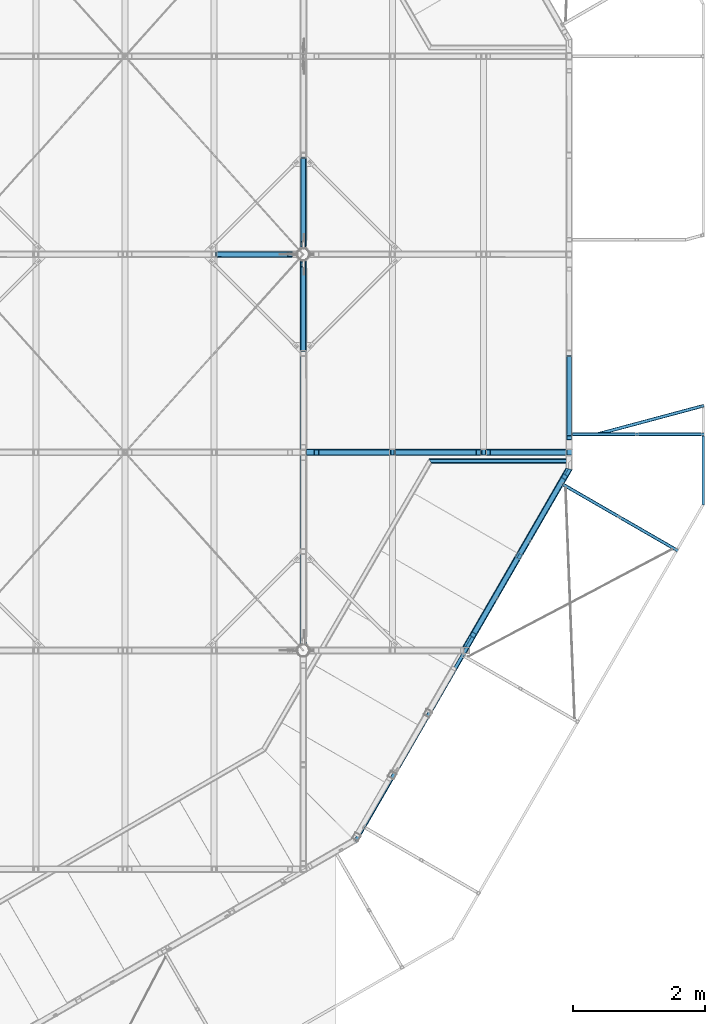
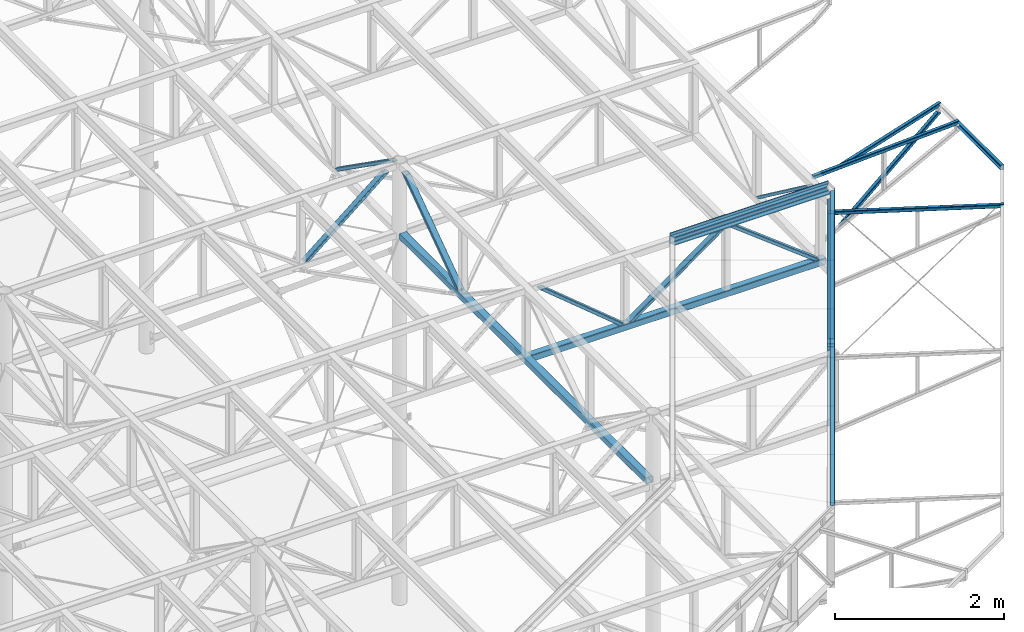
# One storey, part 50 of 132: 21 discrete accessories, 10 elements without a shape of their own.
"""IFC2X3 building model written with IfcOpenShell, lengths in millimetres."""

from ifc_helpers import new_model, si_unit, frame, origin_with_axes, origin_2d_with_axis, place, context, subcontext, project, spatial, hollow_rectangle, circle, l_section, u_section, extrude, boolean, clip, halfspace, material, type_object, element, aggregate, save


model = new_model("IFC2X3")

# Units and contexts
model_context = context("Model", 3, precision=1e-05, world=origin_with_axes())
body_context = subcontext(model_context, "Body", "Model", "MODEL_VIEW")
ifc_project = project(units=[si_unit("LENGTHUNIT", "METRE", prefix="MILLI"), si_unit("AREAUNIT", "SQUARE_METRE"), si_unit("VOLUMEUNIT", "CUBIC_METRE"), si_unit("MASSUNIT", "GRAM", prefix="KILO"), si_unit("TIMEUNIT", "SECOND"), si_unit("PLANEANGLEUNIT", "RADIAN"), si_unit("SOLIDANGLEUNIT", "STERADIAN"), si_unit("THERMODYNAMICTEMPERATUREUNIT", "DEGREE_CELSIUS"), si_unit("LUMINOUSINTENSITYUNIT", "LUMEN")], contexts=[model_context])

# Site, building, storey
site_placement = place(None, origin_with_axes())
site = spatial("IfcSite", under=ifc_project, at=site_placement, Name="Budowa", CompositionType="ELEMENT")
building_placement = place(site_placement, origin_with_axes())
building = spatial("IfcBuilding", under=site, at=building_placement, Name="Undefined", CompositionType="ELEMENT")
storey_placement = place(building_placement, origin_with_axes())
storey = spatial("IfcBuildingStorey", under=building, at=storey_placement, Name="Undefined", CompositionType="ELEMENT", Elevation=0.0)

# Assembly, discrete accessories
assembly_1_placement = place(storey_placement, origin_with_axes())
assembly_1 = element("IfcElementAssembly", 1, at=assembly_1_placement, inside=storey, Name="Steel Assembly", AssemblyPlace="NOTDEFINED", PredefinedType="RIGID_FRAME")
ifc_material = material(Name="STEEL/S235")
discrete_accessory_type = type_object("IfcDiscreteAccessoryType", Name="BEAM")
discrete_accessory_1_placement = place(assembly_1_placement, frame((21011.7389202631, 3102.48285678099, 14004.0), z_axis=(-0.866017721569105, 0.500013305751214, 0.0), x_axis=(0.500013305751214, 0.866017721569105, 0.0)))
discrete_accessory_1 = element("IfcDiscreteAccessory", 2, at=discrete_accessory_1_placement, type_object=discrete_accessory_type, material=ifc_material, Name="BEAM", ObjectType="L60*40*6", context=body_context, shape_type="Clipping", body=[
    clip(clip(extrude(l_section(Depth=60.0, Width=40.0, Thickness=6.0, FilletRadius=6.0, EdgeRadius=3.0, at=origin_2d_with_axis()), frame((6568.83135179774, 0.0, 0.0), z_axis=(-1.0, 0.0, 0.0), x_axis=(0.0, -1.0, 0.0)), (0.0, 0.0, 1.0), 6613.27), halfspace(frame((6508.31074122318, 0.0, 29.9999999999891), z_axis=(-0.965923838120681, 0.0, -0.258826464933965), x_axis=(0.0, -1.0, 0.0)), True)), halfspace(frame((16.0767190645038, 0.0, 30.0000000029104), z_axis=(-0.965926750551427, 0.0, 0.258815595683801), x_axis=(0.0, -1.0, 0.0)), False)),
])
discrete_accessory_2_placement = place(assembly_1_placement, frame((22131.6352302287, 8870.99999993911, 13965.0), z_axis=(0.0, -1.0, 0.0), x_axis=(1.0, 0.0, 0.0)))
discrete_accessory_2 = element("IfcDiscreteAccessory", 3, at=discrete_accessory_2_placement, type_object=discrete_accessory_type, material=ifc_material, Name="BEAM", ObjectType="L50*6", context=body_context, shape_type="Clipping", body=[
    clip(clip(extrude(l_section(Depth=50.0, Width=50.0, Thickness=6.0, FilletRadius=7.0, EdgeRadius=3.5, at=origin_2d_with_axis()), frame((2183.24322268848, 0.0, 0.0), z_axis=(-1.0, 0.0, 0.0), x_axis=(0.0, -1.0, 0.0)), (0.0, 0.0, 1.0), 2213.69), halfspace(frame((2108.36512696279, 0.0, 25.0), z_axis=(0.64018439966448, 0.0, 0.768221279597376), x_axis=(0.0, 1.0, 0.0)), False)), halfspace(frame((3.51101334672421e-08, 0.0, -24.9999999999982), z_axis=(-0.866025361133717, 0.0, 0.500000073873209), x_axis=(0.0, 1.0, 0.0)), False)),
])
aggregate(assembly_1, [discrete_accessory_1, discrete_accessory_2])

# Assembly, discrete accessory
assembly_2_placement = place(storey_placement, origin_with_axes())
assembly_2 = element("IfcElementAssembly", 4, at=assembly_2_placement, inside=storey, Name="Steel Assembly", AssemblyPlace="NOTDEFINED", PredefinedType="RIGID_FRAME")
discrete_accessory_3_placement = place(assembly_2_placement, frame((22152.41983437, 8867.49999999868, 13955.0), z_axis=(0.0, 0.0, 1.0), x_axis=(1.0, 0.0, 0.0)))
discrete_accessory_3 = element("IfcDiscreteAccessory", 5, at=discrete_accessory_3_placement, type_object=discrete_accessory_type, material=ifc_material, Name="BEAM", ObjectType="L150*75*9", context=body_context, shape_type="Clipping", body=[
    clip(extrude(l_section(Depth=150.0, Width=75.0, Thickness=9.0, FilletRadius=10.5, EdgeRadius=5.5, at=origin_2d_with_axis()), frame((2147.58027336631, 0.0, 0.0), z_axis=(-1.0, 0.0, 0.0), x_axis=(0.0, -1.0, 0.0)), (0.0, 0.0, 1.0), 2173.78), halfspace(frame((-25.9807570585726, 37.49999999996, 0.0), z_axis=(-0.866025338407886, -0.500000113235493, 0.0), x_axis=(0.0, 0.0, 1.0)), False)),
])
aggregate(assembly_2, [discrete_accessory_3])

# Assembly, discrete accessories
assembly_3_placement = place(storey_placement, origin_with_axes())
assembly_3 = element("IfcElementAssembly", 6, at=assembly_3_placement, inside=storey, Name="Steel Assembly", AssemblyPlace="NOTDEFINED", PredefinedType="RIGID_FRAME")
discrete_accessory_4_placement = place(assembly_3_placement, frame((26280.0003814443, 7700.00000004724, 13945.0050191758), z_axis=(0.0, 0.0, -1.0), x_axis=(0.0, 1.0, 0.0)))
discrete_accessory_4 = element("IfcDiscreteAccessory", 7, at=discrete_accessory_4_placement, type_object=discrete_accessory_type, material=ifc_material, Name="BEAM", ObjectType="C70*40*4", context=body_context, shape_type="Clipping", body=[
    clip(clip(extrude(u_section(Depth=70.0, FlangeWidth=40.0, WebThickness=4.0, FlangeThickness=4.0, FilletRadius=6.0, at=origin_2d_with_axis()), frame((1550.04355192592, 0.0, 0.0), z_axis=(-1.0, 0.0, 0.0), x_axis=(0.0, -1.0, 0.0)), (0.0, 0.0, 1.0), 1048.11), halfspace(frame((1550.04355192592, 2.5465851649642e-11, -1000.00000000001), z_axis=(-1.0, 0.0, 0.0), x_axis=(0.0, 1.0, 0.0)), True)), halfspace(frame((501.991277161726, 20.0000000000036, -3.0404407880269e-08), z_axis=(0.965930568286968, 0.258801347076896, 0.0), x_axis=(0.0, 0.0, -1.0)), True)),
])
discrete_accessory_5_placement = place(assembly_3_placement, frame((24362.7871924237, 9191.82377756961, 13857.2446461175), z_axis=(-0.258819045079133, 0.965925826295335, 0.0), x_axis=(0.964720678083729, 0.258496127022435, 0.049937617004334)))
discrete_accessory_5 = element("IfcDiscreteAccessory", 8, at=discrete_accessory_5_placement, type_object=discrete_accessory_type, material=ifc_material, Name="BEAM", ObjectType="SHS50*4", context=body_context, shape_type="Clipping", body=[
    clip(clip(extrude(hollow_rectangle(XDim=50.0, YDim=50.0, WallThickness=4.0, InnerFilletRadius=4.0, OuterFilletRadius=8.0, at=origin_2d_with_axis()), frame((2111.08550898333, -1.80434080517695e-12, -9.53752221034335e-13), z_axis=(-1.0, 0.0, 0.0), x_axis=(0.0, -1.0, 0.0)), (0.0, 0.0, 1.0), 1827.2), halfspace(frame((2002.5989463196, -25.0000000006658, -7.85761585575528e-07), z_axis=(-0.689225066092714, -0.724547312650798, 2.88487317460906e-10), x_axis=(0.0, 0.0, -1.0)), True)), halfspace(frame((1294.40710543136, 0.323120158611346, -234.369575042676), z_axis=(0.258496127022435, 0.0129248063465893, 0.965925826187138), x_axis=(0.0033412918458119, -0.999916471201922, 0.0124854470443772)), True)),
])
discrete_accessory_6_placement = place(assembly_3_placement, frame((24349.0587674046, 9188.1452571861, 12837.2694042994), z_axis=(-0.258819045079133, 0.965925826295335, 0.0), x_axis=(0.861116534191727, 0.230735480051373, 0.453033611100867)))
discrete_accessory_6 = element("IfcDiscreteAccessory", 9, at=discrete_accessory_6_placement, type_object=discrete_accessory_type, material=ifc_material, Name="BEAM", ObjectType="SHS50*4", context=body_context, shape_type="Clipping", body=[
    clip(clip(extrude(hollow_rectangle(XDim=50.0, YDim=50.0, WallThickness=4.0, InnerFilletRadius=4.0, OuterFilletRadius=8.0, at=origin_2d_with_axis()), frame((2389.35734704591, -7.57925581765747e-14, -1.3295408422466e-12), z_axis=(-1.0, 0.0, 0.0), x_axis=(0.0, -1.0, 0.0)), (0.0, 0.0, 1.0), 2063.71), halfspace(frame((2245.37694878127, 25.0000000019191, -2.87608600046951e-07), z_axis=(-0.852359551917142, 0.522956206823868, 1.21815370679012e-10), x_axis=(0.0, 0.0, 1.0)), True)), halfspace(frame((1355.01781763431, 2.93134316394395, -208.190005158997), z_axis=(0.230735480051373, 0.117253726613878, 0.965925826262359), x_axis=(0.0272425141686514, -0.993101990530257, 0.114045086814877)), True)),
])
discrete_accessory_7_placement = place(assembly_3_placement, frame((24301.1484404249, 9275.04355197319, 13855.0311915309), z_axis=(0.0, 1.0, 0.0), x_axis=(0.998752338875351, 0.0, 0.0499376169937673)))
discrete_accessory_7 = element("IfcDiscreteAccessory", 10, at=discrete_accessory_7_placement, type_object=discrete_accessory_type, material=ifc_material, Name="BEAM", ObjectType="SHS50*4", context=body_context, shape_type="Clipping", body=[
    clip(clip(extrude(hollow_rectangle(XDim=50.0, YDim=50.0, WallThickness=4.0, InnerFilletRadius=4.0, OuterFilletRadius=8.0, at=origin_2d_with_axis()), frame((2004.12425861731, -3.63797880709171e-12, 0.0), z_axis=(-1.0, 0.0, 0.0), x_axis=(0.0, -1.0, 0.0)), (0.0, 0.0, 1.0), 2033.18), halfspace(frame((2002.5989463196, -25.0000000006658, -7.85761585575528e-07), z_axis=(-0.689225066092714, -0.724547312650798, 2.88487317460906e-10), x_axis=(0.0, 0.0, -1.0)), True)), halfspace(frame((-1.23691279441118e-08, -25.0000000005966, 73.1665326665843), z_axis=(-0.998752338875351, -0.0499376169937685, 0.0), x_axis=(0.0, 0.0, -1.0)), False)),
])
aggregate(assembly_3, [discrete_accessory_4, discrete_accessory_5, discrete_accessory_6, discrete_accessory_7])

# Assembly, discrete accessory
assembly_4_placement = place(storey_placement, origin_with_axes())
assembly_4 = element("IfcElementAssembly", 11, at=assembly_4_placement, inside=storey, Name="Steel Assembly", AssemblyPlace="NOTDEFINED", PredefinedType="RIGID_FRAME")
discrete_accessory_8_placement = place(assembly_4_placement, frame((24169.0634543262, 8508.74561168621, 13855.0311915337), z_axis=(-0.499969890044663, -0.866042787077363, 0.0), x_axis=(0.864962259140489, -0.499346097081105, 0.0499376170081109)))
discrete_accessory_8 = element("IfcDiscreteAccessory", 12, at=discrete_accessory_8_placement, type_object=discrete_accessory_type, material=ifc_material, Name="BEAM", ObjectType="SHS50*4", context=body_context, shape_type="Clipping", body=[
    clip(clip(extrude(hollow_rectangle(XDim=50.0, YDim=50.0, WallThickness=4.0, InnerFilletRadius=4.0, OuterFilletRadius=8.0, at=origin_2d_with_axis()), frame((2047.80222226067, -1.81898940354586e-12, -1.00153404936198e-12), z_axis=(-1.0, 0.0, 0.0), x_axis=(0.0, -1.0, 0.0)), (0.0, 0.0, 1.0), 2120.54), halfspace(frame((2002.59894631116, 25.0000000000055, -2.91038304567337e-11), z_axis=(-0.689225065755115, 0.724547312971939, 0.0), x_axis=(0.0, 0.0, 1.0)), True)), halfspace(frame((-1.21290213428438e-08, 25.0000000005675, 73.1665326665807), z_axis=(-0.998752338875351, 0.0499376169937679, 0.0), x_axis=(-0.0499376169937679, -0.998752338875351, 0.0)), False)),
])
aggregate(assembly_4, [discrete_accessory_8])

assembly_5_placement = place(storey_placement, origin_with_axes())
assembly_5 = element("IfcElementAssembly", 13, at=assembly_5_placement, inside=storey, Name="Steel Assembly", AssemblyPlace="NOTDEFINED", PredefinedType="RIGID_FRAME")
discrete_accessory_9_placement = place(assembly_5_placement, frame((24249.8999999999, 10500.000000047, 12830.0000000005), z_axis=(-1.0, 0.0, 0.0), x_axis=(0.0, -0.802498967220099, 0.596653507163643)))
solid_1 = boolean("DIFFERENCE", boolean("DIFFERENCE", extrude(hollow_rectangle(XDim=90.0, YDim=90.0, WallThickness=4.0, InnerFilletRadius=4.0, OuterFilletRadius=8.0, at=origin_2d_with_axis()), frame((566.820831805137, 762.3740188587, -2.91038304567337e-11), z_axis=(-0.596653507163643, -0.802498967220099, 0.0), x_axis=(0.0, 0.0, 1.0)), (0.0, 0.0, 1.0), 900.0), halfspace(frame((-235.678135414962, 1359.02752602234, -2.91038304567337e-11), z_axis=(-0.596653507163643, -0.802498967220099, 0.0), x_axis=(0.0, 0.0, 1.0)), True)), halfspace(frame((-772.666291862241, 636.778455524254, -2.91038304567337e-11), z_axis=(0.596653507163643, 0.802498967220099, 0.0), x_axis=(0.0, 0.0, -1.0)), True))
discrete_accessory_9 = element("IfcDiscreteAccessory", 14, at=discrete_accessory_9_placement, type_object=discrete_accessory_type, material=ifc_material, Name="BEAM", ObjectType="RHS80*40*4", context=body_context, shape_type="CSG", body=[
    boolean("DIFFERENCE", boolean("DIFFERENCE", boolean("DIFFERENCE", extrude(hollow_rectangle(XDim=40.0, YDim=80.0, WallThickness=4.0, InnerFilletRadius=4.0, OuterFilletRadius=8.0, at=origin_2d_with_axis()), frame((1637.41704532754, 0.0, 0.0), z_axis=(-1.0, 0.0, 0.0), x_axis=(0.0, -1.0, 0.0)), (0.0, 0.0, 1.0), 1598.82), solid_1), halfspace(frame((1646.18194282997, -40.1249483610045, 1000.0), z_axis=(-0.596653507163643, -0.802498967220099, 0.0), x_axis=(0.802498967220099, -0.596653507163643, 0.0)), True)), halfspace(frame((29.8326753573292, 40.1249483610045, 1000.0), z_axis=(0.596653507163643, 0.802498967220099, 0.0), x_axis=(-0.802498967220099, 0.596653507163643, 0.0)), True)),
])
aggregate(assembly_5, [discrete_accessory_9])

# Assembly, discrete accessories
assembly_6_placement = place(storey_placement, origin_with_axes())
assembly_6 = element("IfcElementAssembly", 15, at=assembly_6_placement, inside=storey, Name="Steel Assembly", AssemblyPlace="NOTDEFINED", PredefinedType="RIGID_FRAME")
discrete_accessory_10_placement = place(assembly_6_placement, frame((23489.6987875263, 7434.23487827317, 12830.0000000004), z_axis=(0.866025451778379, -0.499999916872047, 0.0), x_axis=(-0.412062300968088, -0.713712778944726, 0.566408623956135)))
solid_2 = boolean("DIFFERENCE", boolean("DIFFERENCE", extrude(hollow_rectangle(XDim=90.0, YDim=90.0, WallThickness=4.0, InnerFilletRadius=4.0, OuterFilletRadius=8.0, at=origin_2d_with_axis()), frame((538.088192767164, -782.918320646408, 9.82236597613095e-08), z_axis=(-0.566408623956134, 0.824124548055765, -1.04792036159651e-10), x_axis=(0.0, 0.0, -1.0)), (0.0, 0.0, 1.0), 900.0), halfspace(frame((-286.03635719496, -1349.32694591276, 5.13791746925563e-08), z_axis=(-0.566408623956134, 0.824124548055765, -1.04792036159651e-10), x_axis=(0.824124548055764, 0.566408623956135, 1.52471329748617e-10)), True)), halfspace(frame((-795.804118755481, -607.614852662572, 1.45691046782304e-07), z_axis=(0.566408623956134, -0.824124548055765, 1.04790926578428e-10), x_axis=(0.824124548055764, 0.566408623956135, 1.52471329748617e-10)), True))
discrete_accessory_10 = element("IfcDiscreteAccessory", 16, at=discrete_accessory_10_placement, type_object=discrete_accessory_type, material=ifc_material, Name="BEAM", ObjectType="RHS80*40*4", context=body_context, shape_type="CSG", body=[
    boolean("DIFFERENCE", boolean("DIFFERENCE", boolean("DIFFERENCE", extrude(hollow_rectangle(XDim=40.0, YDim=80.0, WallThickness=4.0, InnerFilletRadius=4.0, OuterFilletRadius=8.0, at=origin_2d_with_axis()), frame((1787.39149860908, -1.98440319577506e-13, -3.60765181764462e-12), z_axis=(-1.0, 0.0, 0.0), x_axis=(0.0, -1.0, 0.0)), (0.0, 0.0, 1.0), 1809.27), solid_2), halfspace(frame((1737.18941028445, 41.2062274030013, 999.999999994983), z_axis=(-0.566408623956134, 0.824124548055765, -1.04792036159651e-10), x_axis=(-0.824124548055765, -0.566408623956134, -1.52471329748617e-10)), True)), halfspace(frame((28.3204310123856, -41.2062274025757, 1000.00000000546), z_axis=(0.566408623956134, -0.824124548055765, 1.04790926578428e-10), x_axis=(0.824124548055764, 0.566408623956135, 1.52471329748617e-10)), True)),
])
discrete_accessory_11_placement = place(assembly_6_placement, frame((23489.6987875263, 7434.23487827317, 12830.0000000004), z_axis=(0.866025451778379, -0.499999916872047, 0.0), x_axis=(0.412062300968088, 0.713712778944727, 0.566408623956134)))
solid_3 = boolean("DIFFERENCE", boolean("DIFFERENCE", extrude(hollow_rectangle(XDim=90.0, YDim=90.0, WallThickness=4.0, InnerFilletRadius=4.0, OuterFilletRadius=8.0, at=origin_2d_with_axis()), frame((538.088190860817, 782.918321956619, -1.00875396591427e-07), z_axis=(-0.566408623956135, -0.824124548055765, 1.04791647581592e-10), x_axis=(0.0, 0.0, -1.0)), (0.0, 0.0, 1.0), 900.0), halfspace(frame((1362.21274082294, 216.509696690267, 2.50475750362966e-07), z_axis=(-0.566408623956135, -0.824124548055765, 1.04791647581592e-10), x_axis=(-0.824124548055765, 0.566408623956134, 1.52474967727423e-10)), True)), halfspace(frame((852.444979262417, -525.202396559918, 1.56162059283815e-07), z_axis=(0.566408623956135, 0.824124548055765, -1.04794017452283e-10), x_axis=(-0.824124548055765, 0.566408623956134, 1.52474967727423e-10)), True))
discrete_accessory_11 = element("IfcDiscreteAccessory", 17, at=discrete_accessory_11_placement, type_object=discrete_accessory_type, material=ifc_material, Name="BEAM", ObjectType="RHS80*40*4", context=body_context, shape_type="CSG", body=[
    boolean("DIFFERENCE", boolean("DIFFERENCE", boolean("DIFFERENCE", extrude(hollow_rectangle(XDim=40.0, YDim=80.0, WallThickness=4.0, InnerFilletRadius=4.0, OuterFilletRadius=8.0, at=origin_2d_with_axis()), frame((1787.39149860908, -1.98440319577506e-13, -3.60765181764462e-12), z_axis=(-1.0, 0.0, 0.0), x_axis=(0.0, -1.0, 0.0)), (0.0, 0.0, 1.0), 1809.27), solid_3), halfspace(frame((1737.18941065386, -41.2062274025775, 1000.00000000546), z_axis=(-0.566408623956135, -0.824124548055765, 1.04791647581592e-10), x_axis=(0.824124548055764, -0.566408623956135, -1.52471329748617e-10)), True)), halfspace(frame((28.3204313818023, 41.2062274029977, 999.999999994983), z_axis=(0.566408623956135, 0.824124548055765, -1.04794017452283e-10), x_axis=(-0.824124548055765, 0.566408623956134, 1.52474967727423e-10)), True)),
])
discrete_accessory_12_placement = place(assembly_6_placement, frame((22704.5987308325, 6074.40181030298, 12830.0), z_axis=(0.866025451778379, -0.499999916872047, 0.0), x_axis=(0.5000000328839, 0.866025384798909, 0.0)))
discrete_accessory_12 = element("IfcDiscreteAccessory", 18, at=discrete_accessory_12_placement, type_object=discrete_accessory_type, material=ifc_material, Name="BEAM", ObjectType="SHS100*8", context=body_context, shape_type="Clipping", body=[
    clip(clip(extrude(hollow_rectangle(XDim=100.0, YDim=100.0, WallThickness=8.0, InnerFilletRadius=8.0, OuterFilletRadius=16.0, at=origin_2d_with_axis()), frame((3156.92730982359, 0.0, 0.0), z_axis=(-1.0, 0.0, 0.0), x_axis=(0.0, -1.0, 0.0)), (0.0, 0.0, 1.0), 3251.23), halfspace(frame((3104.20001122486, 0.0, 49.99999999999), z_axis=(0.965925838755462, 0.0, -0.2588189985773), x_axis=(0.0, 1.0, 0.0)), False)), halfspace(frame((0.518048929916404, 50.0, 49.7009042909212), z_axis=(0.866025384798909, 0.0, -0.5000000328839), x_axis=(-0.5000000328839, 0.0, -0.866025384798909)), True)),
])
discrete_accessory_13_placement = place(assembly_6_placement, frame((22704.5987308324, 6074.40181030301, 13830.0), z_axis=(0.866025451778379, -0.499999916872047, 0.0), x_axis=(0.5000000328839, 0.866025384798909, 0.0)))
discrete_accessory_13 = element("IfcDiscreteAccessory", 19, at=discrete_accessory_13_placement, type_object=discrete_accessory_type, material=ifc_material, Name="BEAM", ObjectType="SHS100*8", context=body_context, shape_type="Clipping", body=[
    clip(clip(extrude(hollow_rectangle(XDim=100.0, YDim=100.0, WallThickness=8.0, InnerFilletRadius=8.0, OuterFilletRadius=16.0, at=origin_2d_with_axis()), frame((3156.92730982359, 0.0, 0.0), z_axis=(-1.0, 0.0, 0.0), x_axis=(0.0, -1.0, 0.0)), (0.0, 0.0, 1.0), 3251.23), halfspace(frame((3104.20001122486, 0.0, 49.99999999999), z_axis=(0.965925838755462, 0.0, -0.2588189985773), x_axis=(0.0, 1.0, 0.0)), False)), halfspace(frame((0.518048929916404, 50.0, 49.7009042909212), z_axis=(0.866025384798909, 0.0, -0.5000000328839), x_axis=(-0.5000000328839, 0.0, -0.866025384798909)), True)),
])
aggregate(assembly_6, [discrete_accessory_10, discrete_accessory_11, discrete_accessory_12, discrete_accessory_13])

assembly_7_placement = place(storey_placement, origin_with_axes())
assembly_7 = element("IfcElementAssembly", 20, at=assembly_7_placement, inside=storey, Name="Steel Assembly", AssemblyPlace="NOTDEFINED", PredefinedType="RIGID_FRAME")
discrete_accessory_14_placement = place(assembly_7_placement, frame((20365.8999999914, 9000.00000004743, 13830.0000000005), z_axis=(0.0, -1.0, 0.0), x_axis=(0.77030791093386, 0.0, -0.637672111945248)))
solid_4 = boolean("DIFFERENCE", boolean("DIFFERENCE", extrude(hollow_rectangle(XDim=90.0, YDim=90.0, WallThickness=6.0, InnerFilletRadius=6.0, OuterFilletRadius=12.0, at=origin_2d_with_axis()), frame((1536.320462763, 38.5153958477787, 3.71073838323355e-10), z_axis=(-0.637672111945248, 0.770307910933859, 0.0), x_axis=(0.0, 0.0, -1.0)), (0.0, 0.0, 1.0), 900.0), halfspace(frame((766.012551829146, -599.15671609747, 3.71073838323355e-10), z_axis=(-0.637672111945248, 0.770307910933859, 0.0), x_axis=(0.0, 0.0, -1.0)), True)), halfspace(frame((192.107651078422, 94.1204037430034, 3.71073838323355e-10), z_axis=(0.637672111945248, -0.770307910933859, 0.0), x_axis=(0.0, 0.0, 1.0)), True))
discrete_accessory_14 = element("IfcDiscreteAccessory", 21, at=discrete_accessory_14_placement, type_object=discrete_accessory_type, material=ifc_material, Name="BEAM", ObjectType="RHS90*50*5", context=body_context, shape_type="CSG", body=[
    boolean("DIFFERENCE", boolean("DIFFERENCE", boolean("DIFFERENCE", extrude(hollow_rectangle(XDim=50.0, YDim=90.0, WallThickness=5.0, InnerFilletRadius=7.5, OuterFilletRadius=12.5, at=origin_2d_with_axis()), frame((1532.27723418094, -9.9455317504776e-13, 0.0), z_axis=(-1.0, 0.0, 0.0), x_axis=(0.0, -1.0, 0.0)), (0.0, 0.0, 1.0), 1496.35), solid_4), halfspace(frame((1536.32046239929, 38.5153955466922, 1000.0), z_axis=(-0.637672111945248, 0.770307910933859, 0.0), x_axis=(-0.770307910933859, -0.637672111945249, 0.0)), True)), halfspace(frame((31.8836055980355, -38.5153955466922, 1000.0), z_axis=(0.637672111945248, -0.770307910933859, 0.0), x_axis=(0.77030791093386, 0.637672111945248, 0.0)), True)),
])
discrete_accessory_15_placement = place(assembly_7_placement, frame((22954.8999995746, 9000.00000004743, 13830.0000000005), z_axis=(0.0, -1.0, 0.0), x_axis=(-0.809951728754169, 0.0, -0.586496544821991)))
solid_5 = boolean("DIFFERENCE", boolean("DIFFERENCE", extrude(hollow_rectangle(XDim=90.0, YDim=90.0, WallThickness=6.0, InnerFilletRadius=6.0, OuterFilletRadius=12.0, at=origin_2d_with_axis()), frame((1675.71505464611, -40.4975858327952, 3.72892827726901e-10), z_axis=(-0.586496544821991, -0.809951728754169, 0.0), x_axis=(0.0, 0.0, -1.0)), (0.0, 0.0, 1.0), 900.0), halfspace(frame((2485.66678340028, -626.994130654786, 3.72892827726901e-10), z_axis=(-0.586496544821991, -0.809951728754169, 0.0), x_axis=(0.0, 0.0, -1.0)), True)), halfspace(frame((1957.81989306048, -1355.95068653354, 3.72892827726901e-10), z_axis=(0.586496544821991, 0.809951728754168, 0.0), x_axis=(0.0, 0.0, 1.0)), True))
solid_6 = boolean("DIFFERENCE", boolean("DIFFERENCE", extrude(hollow_rectangle(XDim=90.0, YDim=90.0, WallThickness=6.0, InnerFilletRadius=6.0, OuterFilletRadius=12.0, at=origin_2d_with_axis()), frame((557.171717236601, 769.454142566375, 3.72892827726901e-10), z_axis=(-0.586496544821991, -0.809951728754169, 0.0), x_axis=(0.0, 0.0, -1.0)), (0.0, 0.0, 1.0), 900.0), halfspace(frame((1367.12344599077, 182.957597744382, 3.72892827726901e-10), z_axis=(-0.586496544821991, -0.809951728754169, 0.0), x_axis=(0.0, 0.0, -1.0)), True)), halfspace(frame((839.27655565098, -545.998958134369, 3.72892827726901e-10), z_axis=(0.586496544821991, 0.809951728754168, 0.0), x_axis=(0.0, 0.0, 1.0)), True))
discrete_accessory_15 = element("IfcDiscreteAccessory", 22, at=discrete_accessory_15_placement, type_object=discrete_accessory_type, material=ifc_material, Name="BEAM", ObjectType="RHS90*50*5", context=body_context, shape_type="CSG", body=[
    boolean("DIFFERENCE", boolean("DIFFERENCE", boolean("DIFFERENCE", boolean("DIFFERENCE", extrude(hollow_rectangle(XDim=50.0, YDim=90.0, WallThickness=5.0, InnerFilletRadius=7.5, OuterFilletRadius=12.5, at=origin_2d_with_axis()), frame((1659.13615307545, -9.21005579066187e-14, 1.81898940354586e-12), z_axis=(-1.0, 0.0, 0.0), x_axis=(0.0, -1.0, 0.0)), (0.0, 0.0, 1.0), 1613.23), solid_5), solid_6), halfspace(frame((1675.71505548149, -40.4975864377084, 1000.0), z_axis=(-0.586496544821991, -0.809951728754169, 0.0), x_axis=(0.80995172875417, -0.586496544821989, 0.0)), True)), halfspace(frame((29.3248272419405, 40.4975864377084, 1000.0), z_axis=(0.586496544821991, 0.809951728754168, 0.0), x_axis=(-0.809951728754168, 0.586496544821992, 0.0)), True)),
])
discrete_accessory_16_placement = place(assembly_7_placement, frame((24249.9000000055, 9000.00000004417, 12830.0000000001), z_axis=(0.0, -1.0, 0.0), x_axis=(-0.791486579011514, 0.0, 0.611186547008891)))
solid_7 = boolean("DIFFERENCE", boolean("DIFFERENCE", extrude(hollow_rectangle(XDim=100.0, YDim=100.0, WallThickness=8.0, InnerFilletRadius=8.0, OuterFilletRadius=16.0, at=origin_2d_with_axis()), frame((30.5593273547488, -39.5743289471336, -2.88309820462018e-09), z_axis=(0.611186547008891, -0.791486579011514, 0.0), x_axis=(0.0, 0.0, -1.0)), (0.0, 0.0, 1.0), 900.0), halfspace(frame((822.045906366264, 571.61221806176, -2.88309820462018e-09), z_axis=(0.611186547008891, -0.791486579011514, 0.0), x_axis=(0.0, 0.0, -1.0)), True)), halfspace(frame((1372.11379867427, -140.725703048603, -2.88309820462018e-09), z_axis=(-0.61118654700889, 0.791486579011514, 0.0), x_axis=(0.0, 0.0, 1.0)), True))
solid_8 = boolean("DIFFERENCE", boolean("DIFFERENCE", extrude(hollow_rectangle(XDim=90.0, YDim=90.0, WallThickness=6.0, InnerFilletRadius=6.0, OuterFilletRadius=12.0, at=origin_2d_with_axis()), frame((1055.53444717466, 751.912249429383, -2.88309820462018e-09), z_axis=(0.611186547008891, -0.791486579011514, 0.0), x_axis=(0.0, 0.0, -1.0)), (0.0, 0.0, 1.0), 900.0), halfspace(frame((1847.02102618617, 1363.09879643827, -2.88309820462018e-09), z_axis=(0.611186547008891, -0.791486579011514, 0.0), x_axis=(0.0, 0.0, -1.0)), True)), halfspace(frame((2397.08891849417, 650.760875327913, -2.88309820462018e-09), z_axis=(-0.61118654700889, 0.791486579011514, 0.0), x_axis=(0.0, 0.0, 1.0)), True))
discrete_accessory_16 = element("IfcDiscreteAccessory", 23, at=discrete_accessory_16_placement, type_object=discrete_accessory_type, material=ifc_material, Name="BEAM", ObjectType="RHS90*50*5", context=body_context, shape_type="CSG", body=[
    boolean("DIFFERENCE", boolean("DIFFERENCE", boolean("DIFFERENCE", boolean("DIFFERENCE", extrude(hollow_rectangle(XDim=50.0, YDim=90.0, WallThickness=5.0, InnerFilletRadius=7.5, OuterFilletRadius=12.5, at=origin_2d_with_axis()), frame((1581.93293336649, 8.78149183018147e-14, 0.0), z_axis=(-1.0, 0.0, 0.0), x_axis=(0.0, -1.0, 0.0)), (0.0, 0.0, 1.0), 1527.7), solid_7), solid_8), halfspace(frame((1605.60234030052, 39.5743289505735, 1000.0), z_axis=(-0.61118654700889, 0.791486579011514, 0.0), x_axis=(-0.791486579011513, -0.611186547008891, 0.0)), True)), halfspace(frame((30.5593273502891, -39.5743289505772, 1000.0), z_axis=(0.611186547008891, -0.791486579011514, 0.0), x_axis=(0.791486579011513, 0.611186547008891, 0.0)), True)),
])
discrete_accessory_17_placement = place(assembly_7_placement, frame((20274.9, 9000.00000004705, 12830.0), z_axis=(0.0, -1.0, 0.0), x_axis=(1.0, 0.0, 0.0)))
discrete_accessory_17 = element("IfcDiscreteAccessory", 24, at=discrete_accessory_17_placement, type_object=discrete_accessory_type, material=ifc_material, Name="BEAM", ObjectType="SHS100*8", context=body_context, shape_type="SweptSolid", body=[
    extrude(hollow_rectangle(XDim=100.0, YDim=100.0, WallThickness=8.0, InnerFilletRadius=8.0, OuterFilletRadius=16.0, at=origin_2d_with_axis()), frame((4025.0, 0.0, 0.0), z_axis=(-1.0, 0.0, 0.0), x_axis=(0.0, -1.0, 0.0)), (0.0, 0.0, 1.0), 4025.0),
])
aggregate(assembly_7, [discrete_accessory_14, discrete_accessory_15, discrete_accessory_16, discrete_accessory_17])

# Assembly, discrete accessory
assembly_8_placement = place(storey_placement, origin_with_axes())
assembly_8 = element("IfcElementAssembly", 25, at=assembly_8_placement, inside=storey, Name="Steel Assembly", AssemblyPlace="NOTDEFINED", PredefinedType="RIGID_FRAME")
discrete_accessory_18_placement = place(assembly_8_placement, frame((20224.9999999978, 13499.8000000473, 12829.9999999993), z_axis=(1.0, 0.0, 0.0), x_axis=(0.0, -0.817796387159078, 0.575507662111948)))
solid_9 = boolean("DIFFERENCE", boolean("DIFFERENCE", extrude(hollow_rectangle(XDim=90.0, YDim=90.0, WallThickness=6.0, InnerFilletRadius=6.0, OuterFilletRadius=12.0, at=origin_2d_with_axis()), frame((28.6118238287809, -41.0049208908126, 2.20825313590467e-09), z_axis=(0.575507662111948, -0.817796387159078, 0.0), x_axis=(0.817796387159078, 0.575507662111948, 0.0)), (0.0, 0.0, 1.0), 900.0), halfspace(frame((28.6118238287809, -41.0049208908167, 1000.00000000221), z_axis=(0.575507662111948, -0.817796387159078, 0.0), x_axis=(0.817796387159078, 0.575507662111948, 0.0)), True)), halfspace(frame((546.568719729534, -777.021669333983, 1000.00000000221), z_axis=(-0.57550766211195, 0.817796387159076, 0.0), x_axis=(-0.817796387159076, -0.57550766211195, 0.0)), True))
discrete_accessory_18 = element("IfcDiscreteAccessory", 26, at=discrete_accessory_18_placement, type_object=discrete_accessory_type, material=ifc_material, Name="BEAM", ObjectType="RHS90*50*5", context=body_context, shape_type="CSG", body=[
    boolean("DIFFERENCE", boolean("DIFFERENCE", boolean("DIFFERENCE", extrude(hollow_rectangle(XDim=50.0, YDim=90.0, WallThickness=5.0, InnerFilletRadius=7.5, OuterFilletRadius=12.5, at=origin_2d_with_axis()), frame((1708.27858753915, 0.0, 0.0), z_axis=(-1.0, 0.0, 0.0), x_axis=(0.0, -1.0, 0.0)), (0.0, 0.0, 1.0), 1678.96), solid_9), halfspace(frame((1708.8209441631, 40.8898193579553, 1000.0), z_axis=(-0.57550766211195, 0.817796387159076, 0.0), x_axis=(-0.817796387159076, -0.57550766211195, 0.0)), True)), halfspace(frame((28.7753831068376, -40.8898193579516, 1000.0), z_axis=(0.575507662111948, -0.817796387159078, 0.0), x_axis=(0.817796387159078, 0.575507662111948, 0.0)), True)),
])
aggregate(assembly_8, [discrete_accessory_18])

# Assembly, discrete accessories
assembly_9_placement = place(storey_placement, origin_with_axes())
assembly_9 = element("IfcElementAssembly", 27, at=assembly_9_placement, inside=storey, Name="Steel Assembly", AssemblyPlace="NOTDEFINED", PredefinedType="RIGID_FRAME")
discrete_accessory_19_placement = place(assembly_9_placement, frame((20224.9999999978, 10500.0000000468, 12829.9999999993), z_axis=(1.0, 0.0, 0.0), x_axis=(0.0, 0.817796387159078, 0.575507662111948)))
solid_10 = boolean("DIFFERENCE", boolean("DIFFERENCE", extrude(hollow_rectangle(XDim=90.0, YDim=90.0, WallThickness=6.0, InnerFilletRadius=6.0, OuterFilletRadius=12.0, at=origin_2d_with_axis()), frame((28.7753831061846, 40.8898193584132, 2.20825313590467e-09), z_axis=(0.575507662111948, 0.817796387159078, 0.0), x_axis=(-0.817796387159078, 0.575507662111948, 0.0)), (0.0, 0.0, 1.0), 900.0), halfspace(frame((28.7753831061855, 40.8898193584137, 1000.00000000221), z_axis=(0.575507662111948, 0.817796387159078, 0.0), x_axis=(-0.817796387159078, 0.575507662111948, 0.0)), True)), halfspace(frame((546.732279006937, 776.906567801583, 1000.00000000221), z_axis=(-0.575507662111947, -0.817796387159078, 0.0), x_axis=(0.817796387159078, -0.575507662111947, 0.0)), True))
discrete_accessory_19 = element("IfcDiscreteAccessory", 28, at=discrete_accessory_19_placement, type_object=discrete_accessory_type, material=ifc_material, Name="BEAM", ObjectType="RHS90*50*5", context=body_context, shape_type="CSG", body=[
    boolean("DIFFERENCE", boolean("DIFFERENCE", boolean("DIFFERENCE", extrude(hollow_rectangle(XDim=50.0, YDim=90.0, WallThickness=5.0, InnerFilletRadius=7.5, OuterFilletRadius=12.5, at=origin_2d_with_axis()), frame((1708.11339266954, 0.0, 0.0), z_axis=(-1.0, 0.0, 0.0), x_axis=(0.0, -1.0, 0.0)), (0.0, 0.0, 1.0), 1678.63), solid_10), halfspace(frame((1708.8209441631, -40.8898193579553, 1000.0), z_axis=(-0.575507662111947, -0.817796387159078, 0.0), x_axis=(0.817796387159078, -0.575507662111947, 0.0)), True)), halfspace(frame((28.7753831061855, 40.8898193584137, 1000.00000000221), z_axis=(0.575507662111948, 0.817796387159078, 0.0), x_axis=(-0.817796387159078, 0.575507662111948, 0.0)), True)),
])
discrete_accessory_20_placement = place(assembly_9_placement, frame((20225.0, 6088.90000004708, 12830.0), z_axis=(1.0, 0.0, 0.0), x_axis=(0.0, 1.0, 0.0)))
discrete_accessory_20 = element("IfcDiscreteAccessory", 29, at=discrete_accessory_20_placement, type_object=discrete_accessory_type, material=ifc_material, Name="BEAM", ObjectType="SHS100*8", context=body_context, shape_type="CSG", body=[
    boolean("DIFFERENCE", boolean("DIFFERENCE", boolean("DIFFERENCE", boolean("DIFFERENCE", extrude(hollow_rectangle(XDim=100.0, YDim=100.0, WallThickness=8.0, InnerFilletRadius=8.0, OuterFilletRadius=16.0, at=origin_2d_with_axis()), frame((5911.09999999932, 0.0, 0.0), z_axis=(-1.0, 0.0, 0.0), x_axis=(0.0, -1.0, 0.0)), (0.0, 0.0, 1.0), 6000.0), extrude(circle(Radius=89.9, at=origin_2d_with_axis()), frame((5911.09999999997, 1950.0, 0.0), z_axis=(0.0, -1.0, 0.0), x_axis=(-1.0, 0.0, 0.0)), (0.0, 0.0, 1.0), 2100.0)), extrude(circle(Radius=89.9, at=origin_2d_with_axis()), frame((-88.9000000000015, 1950.0, -5.45696821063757e-12), z_axis=(0.0, -1.0, 0.0), x_axis=(-1.0, 0.0, 0.0)), (0.0, 0.0, 1.0), 2100.0)), halfspace(frame((5911.09999999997, -5339.0, 0.0), z_axis=(-1.0, 0.0, 0.0), x_axis=(0.0, 0.0, -1.0)), True)), halfspace(frame((-88.9000000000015, -5339.0, -5.45696821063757e-12), z_axis=(-1.0, 0.0, 0.0), x_axis=(0.0, 0.0, -1.0)), False)),
])
aggregate(assembly_9, [discrete_accessory_19, discrete_accessory_20])

# Assembly, discrete accessory
assembly_10_placement = place(storey_placement, origin_with_axes())
assembly_10 = element("IfcElementAssembly", 30, at=assembly_10_placement, inside=storey, Name="Steel Assembly", AssemblyPlace="NOTDEFINED", PredefinedType="RIGID_FRAME")
discrete_accessory_21_placement = place(assembly_10_placement, frame((20083.9999999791, 12000.0000000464, 13830.0), z_axis=(0.0, -1.0, 0.0), x_axis=(-0.770567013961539, 0.0, -0.637358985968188)))
solid_11 = boolean("DIFFERENCE", boolean("DIFFERENCE", extrude(hollow_rectangle(XDim=90.0, YDim=90.0, WallThickness=6.0, InnerFilletRadius=6.0, OuterFilletRadius=12.0, at=origin_2d_with_axis()), frame((1537.1065565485, -38.5283507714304, -6.22094376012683e-10), z_axis=(-0.637358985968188, -0.770567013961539, 0.0), x_axis=(0.770567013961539, -0.637358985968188, 0.0)), (0.0, 0.0, 1.0), 900.0), halfspace(frame((1537.1065565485, -38.5283507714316, 999.999999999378), z_axis=(-0.637358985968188, -0.770567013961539, 0.0), x_axis=(0.770567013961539, -0.637358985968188, 0.0)), True)), halfspace(frame((963.483469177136, -732.038663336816, 999.999999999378), z_axis=(0.637358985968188, 0.770567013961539, 0.0), x_axis=(-0.770567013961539, 0.637358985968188, 0.0)), True))
discrete_accessory_21 = element("IfcDiscreteAccessory", 31, at=discrete_accessory_21_placement, type_object=discrete_accessory_type, material=ifc_material, Name="BEAM", ObjectType="RHS90*50*5", context=body_context, shape_type="CSG", body=[
    boolean("DIFFERENCE", boolean("DIFFERENCE", boolean("DIFFERENCE", extrude(hollow_rectangle(XDim=50.0, YDim=90.0, WallThickness=5.0, InnerFilletRadius=7.5, OuterFilletRadius=12.5, at=origin_2d_with_axis()), frame((1533.07734352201, 2.27373675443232e-12, 0.0), z_axis=(-1.0, 0.0, 0.0), x_axis=(0.0, -1.0, 0.0)), (0.0, 0.0, 1.0), 1497.18), solid_11), halfspace(frame((1537.1065565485, -38.5283507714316, 999.999999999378), z_axis=(-0.637358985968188, -0.770567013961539, 0.0), x_axis=(0.770567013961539, -0.637358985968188, 0.0)), True)), halfspace(frame((31.867949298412, 38.52835069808, 1000.0), z_axis=(0.637358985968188, 0.770567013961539, 0.0), x_axis=(-0.770567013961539, 0.637358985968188, 0.0)), True)),
])
aggregate(assembly_10, [discrete_accessory_21])

save(model, "model.ifc")
